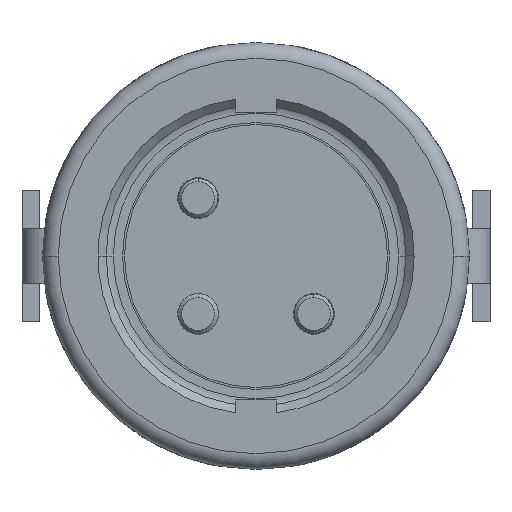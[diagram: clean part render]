
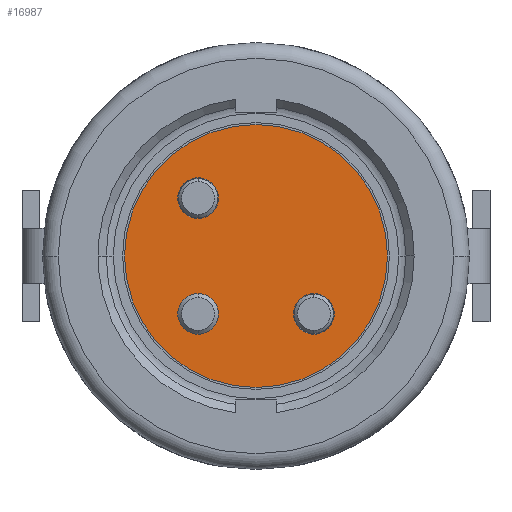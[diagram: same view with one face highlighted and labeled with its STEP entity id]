
A CAD part, front view. The second image highlights one B-rep face of the part: STEP entity #16987.
In plain terms, the highlighted planar face has unit normal (0, -1, 0).
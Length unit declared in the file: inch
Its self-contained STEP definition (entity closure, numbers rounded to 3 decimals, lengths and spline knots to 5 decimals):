
#4736=CARTESIAN_POINT('',(0.,0.507,0.));
#4737=DIRECTION('',(0.,1.,0.));
#4738=DIRECTION('',(1.,0.,0.));
#4739=AXIS2_PLACEMENT_3D('',#4736,#4737,#4738);
#4741=CARTESIAN_POINT('',(0.,0.507,0.));
#4742=DIRECTION('',(0.,1.,0.));
#4743=DIRECTION('',(-1.,0.,0.));
#4744=AXIS2_PLACEMENT_3D('',#4741,#4742,#4743);
#4746=CARTESIAN_POINT('',(-0.22,0.507,0.22));
#4747=DIRECTION('',(0.,-1.,0.));
#4748=DIRECTION('',(0.,0.,-1.));
#4749=AXIS2_PLACEMENT_3D('',#4746,#4747,#4748);
#4751=CARTESIAN_POINT('',(-0.22,0.507,0.22));
#4752=DIRECTION('',(0.,-1.,0.));
#4753=DIRECTION('',(0.,0.,1.));
#4754=AXIS2_PLACEMENT_3D('',#4751,#4752,#4753);
#4756=CARTESIAN_POINT('',(-0.22,0.507,-0.22));
#4757=DIRECTION('',(0.,-1.,0.));
#4758=DIRECTION('',(0.,0.,-1.));
#4759=AXIS2_PLACEMENT_3D('',#4756,#4757,#4758);
#4761=CARTESIAN_POINT('',(-0.22,0.507,-0.22));
#4762=DIRECTION('',(0.,-1.,0.));
#4763=DIRECTION('',(0.,0.,1.));
#4764=AXIS2_PLACEMENT_3D('',#4761,#4762,#4763);
#4766=CARTESIAN_POINT('',(0.22,0.507,-0.22));
#4767=DIRECTION('',(0.,-1.,0.));
#4768=DIRECTION('',(0.,0.,-1.));
#4769=AXIS2_PLACEMENT_3D('',#4766,#4767,#4768);
#4771=CARTESIAN_POINT('',(0.22,0.507,-0.22));
#4772=DIRECTION('',(0.,-1.,0.));
#4773=DIRECTION('',(0.,0.,1.));
#4774=AXIS2_PLACEMENT_3D('',#4771,#4772,#4773);
#10231=CARTESIAN_POINT('',(0.5,0.507,0.));
#10232=CARTESIAN_POINT('',(-0.5,0.507,0.));
#10233=VERTEX_POINT('',#10231);
#10234=VERTEX_POINT('',#10232);
#10235=CARTESIAN_POINT('',(-0.22,0.507,0.1425));
#10236=CARTESIAN_POINT('',(-0.22,0.507,0.2975));
#10237=VERTEX_POINT('',#10235);
#10238=VERTEX_POINT('',#10236);
#10239=CARTESIAN_POINT('',(-0.22,0.507,-0.2975));
#10240=CARTESIAN_POINT('',(-0.22,0.507,-0.1425));
#10241=VERTEX_POINT('',#10239);
#10242=VERTEX_POINT('',#10240);
#10243=CARTESIAN_POINT('',(0.22,0.507,-0.2975));
#10244=CARTESIAN_POINT('',(0.22,0.507,-0.1425));
#10245=VERTEX_POINT('',#10243);
#10246=VERTEX_POINT('',#10244);
#16959=CARTESIAN_POINT('',(0.,0.507,0.));
#16960=DIRECTION('',(0.,1.,0.));
#16961=DIRECTION('',(1.,0.,0.));
#16962=AXIS2_PLACEMENT_3D('',#16959,#16960,#16961);
#16963=PLANE('',#16962);
#16964=ORIENTED_EDGE('',*,*,#16949,.T.);
#16966=ORIENTED_EDGE('',*,*,#16965,.T.);
#16967=EDGE_LOOP('',(#16964,#16966));
#16968=FACE_OUTER_BOUND('',#16967,.F.);
#16970=ORIENTED_EDGE('',*,*,#16969,.T.);
#16972=ORIENTED_EDGE('',*,*,#16971,.T.);
#16973=EDGE_LOOP('',(#16970,#16972));
#16974=FACE_BOUND('',#16973,.F.);
#16976=ORIENTED_EDGE('',*,*,#16975,.T.);
#16978=ORIENTED_EDGE('',*,*,#16977,.T.);
#16979=EDGE_LOOP('',(#16976,#16978));
#16980=FACE_BOUND('',#16979,.F.);
#16982=ORIENTED_EDGE('',*,*,#16981,.T.);
#16984=ORIENTED_EDGE('',*,*,#16983,.T.);
#16985=EDGE_LOOP('',(#16982,#16984));
#16986=FACE_BOUND('',#16985,.F.);
#16987=ADVANCED_FACE('',(#16968,#16974,#16980,#16986),#16963,.F.);
#4740=CIRCLE('',#4739,0.5);
#4745=CIRCLE('',#4744,0.5);
#4750=CIRCLE('',#4749,0.0775);
#4755=CIRCLE('',#4754,0.0775);
#4760=CIRCLE('',#4759,0.0775);
#4765=CIRCLE('',#4764,0.0775);
#4770=CIRCLE('',#4769,0.0775);
#4775=CIRCLE('',#4774,0.0775);
#16949=EDGE_CURVE('',#10233,#10234,#4740,.T.);
#16965=EDGE_CURVE('',#10234,#10233,#4745,.T.);
#16969=EDGE_CURVE('',#10237,#10238,#4750,.T.);
#16971=EDGE_CURVE('',#10238,#10237,#4755,.T.);
#16975=EDGE_CURVE('',#10241,#10242,#4760,.T.);
#16977=EDGE_CURVE('',#10242,#10241,#4765,.T.);
#16981=EDGE_CURVE('',#10245,#10246,#4770,.T.);
#16983=EDGE_CURVE('',#10246,#10245,#4775,.T.);
